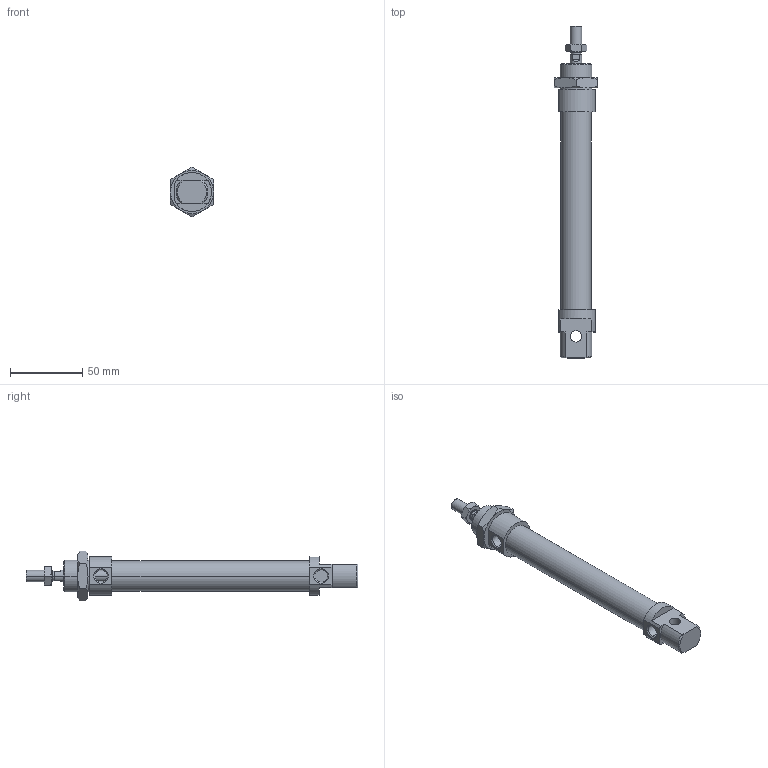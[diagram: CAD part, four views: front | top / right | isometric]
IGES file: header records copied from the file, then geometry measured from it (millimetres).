
Global section: file name: No Iges File Name specified; native system: Autodesk Inventor 2010; preprocessor: AutoDesk Inventor Iges Exporter R2010; author: rivolro1; date: 20090604.093300; units: millimetre
Bounding box: 30 x 230 x 34.64 mm (x, y, z)
Volume: 79655.7 mm3; surface area: 26218.2 mm2
Topology: 4 solids, 4 shells, 110 faces, 249 edges, 152 vertices
Faces by surface type: plane 41, cone 28, bspline 21, cylinder 14, revolution 6
